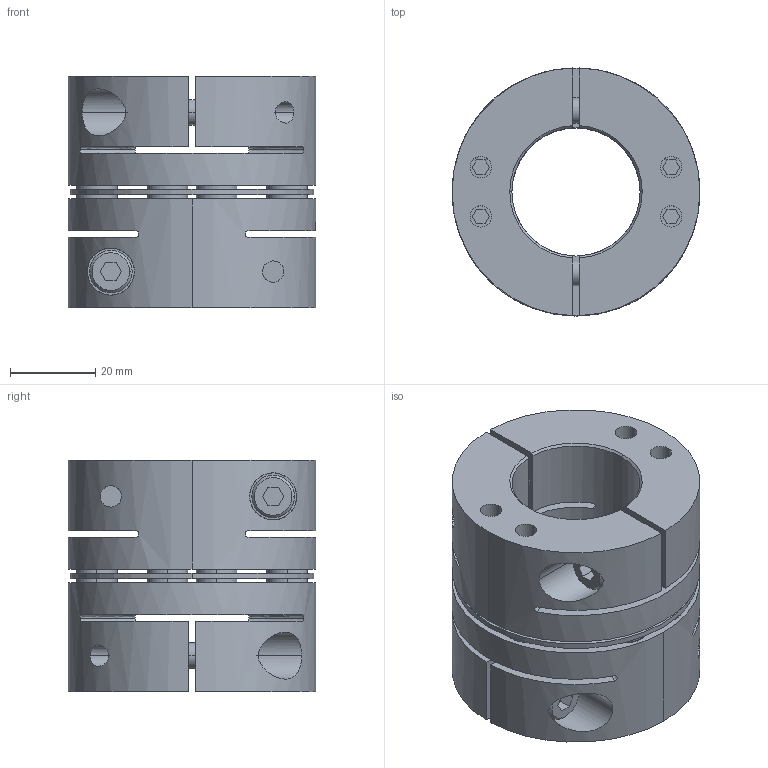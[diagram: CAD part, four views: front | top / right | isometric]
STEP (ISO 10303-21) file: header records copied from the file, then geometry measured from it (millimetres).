
FILE_DESCRIPTION((''),'2;1');
FILE_NAME('TAS-58C-30×30.stp','2022-11-14T22:27:03',(''),(''),'AutoCAD STEP 2000i','AutoCAD 2000i',', , ');
FILE_SCHEMA(('CONFIG_CONTROL_DESIGN'));
Length unit declared in the file: millimetre
Products named in the file (7): TAS-58C-22×22; 忣兜1; TA58C-22-2; CAP-M6×20; TA58C-22; TA58C-12-2; TA58C-12
Assembly tree (9 placements, depth 3):
  TAS-58C-22×22
    忣兜1
    TA58C-22-2
      CAP-M6×20
    TA58C-22
      CAP-M6×20
    TA58C-12-2
      CAP-M6×20
    TA58C-12
      CAP-M6×20
Bounding box: 58 x 58 x 54.25 mm (x, y, z)
Volume: 87959.9 mm3; surface area: 39583.3 mm2
Topology: 1 solids, 1 shells, 360 faces, 903 edges, 645 vertices
Faces by surface type: plane 160, cylinder 148, cone 36, bspline 16
Entity records: 12875 total; most frequent: CARTESIAN_POINT 3843, DIRECTION 1936, ORIENTED_EDGE 1720, EDGE_CURVE 860, AXIS2_PLACEMENT_3D 735, VERTEX_POINT 564, VECTOR 466, LINE 466
